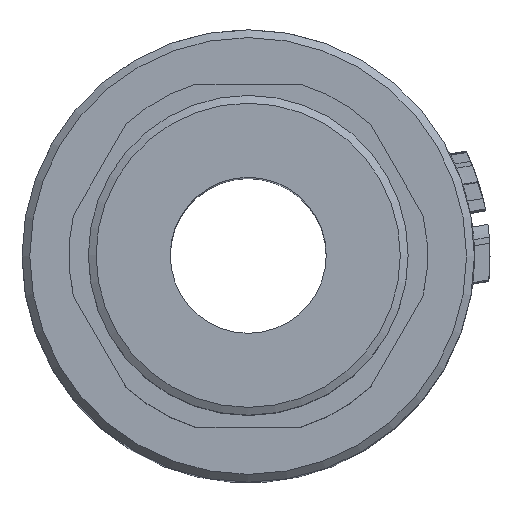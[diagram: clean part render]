
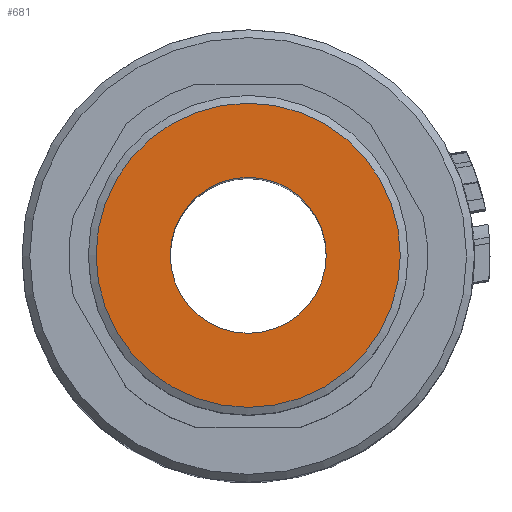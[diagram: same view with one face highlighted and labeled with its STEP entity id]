
A CAD part, top view. The second image highlights one B-rep face of the part: STEP entity #681.
In plain terms, the highlighted planar face has unit normal (0, 0, 1).
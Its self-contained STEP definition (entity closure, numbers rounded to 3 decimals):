
#101=FACE_BOUND('',#1494,.T.);
#102=FACE_BOUND('',#1495,.T.);
#256=CIRCLE('',#6512,5.);
#258=CIRCLE('',#6515,9.75);
#400=PLANE('',#6516);
#681=ADVANCED_FACE('',(#101,#102),#400,.F.);
#1494=EDGE_LOOP('',(#3188));
#1495=EDGE_LOOP('',(#3189));
#3188=ORIENTED_EDGE('',*,*,#5277,.F.);
#3189=ORIENTED_EDGE('',*,*,#5275,.F.);
#4432=VERTEX_POINT('',#13952);
#4434=VERTEX_POINT('',#13957);
#5275=EDGE_CURVE('',#4432,#4432,#256,.T.);
#5277=EDGE_CURVE('',#4434,#4434,#258,.T.);
#6512=AXIS2_PLACEMENT_3D('',#13951,#7433,#7434);
#6515=AXIS2_PLACEMENT_3D('',#13956,#7439,#7440);
#6516=AXIS2_PLACEMENT_3D('',#13958,#7441,#7442);
#7433=DIRECTION('',(0.,0.,1.));
#7434=DIRECTION('',(-1.,0.,0.));
#7439=DIRECTION('',(0.,0.,-1.));
#7440=DIRECTION('',(-1.,0.,0.));
#7441=DIRECTION('',(0.,0.,-1.));
#7442=DIRECTION('',(-1.,0.,0.));
#13951=CARTESIAN_POINT('',(0.,0.,60.));
#13952=CARTESIAN_POINT('',(-5.,0.,60.));
#13956=CARTESIAN_POINT('',(0.,0.,60.));
#13957=CARTESIAN_POINT('',(-9.75,0.,60.));
#13958=CARTESIAN_POINT('',(0.,0.,60.));
